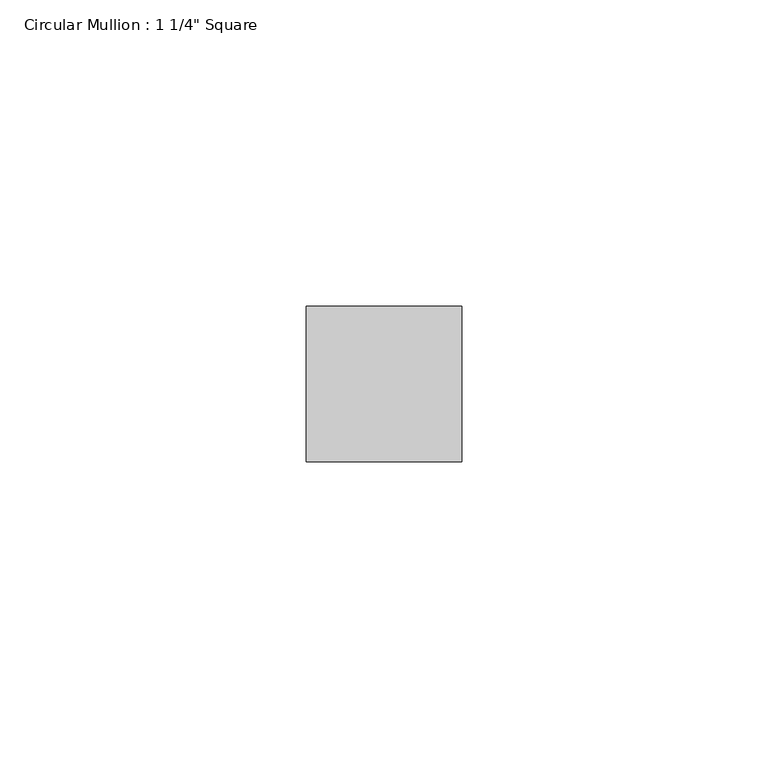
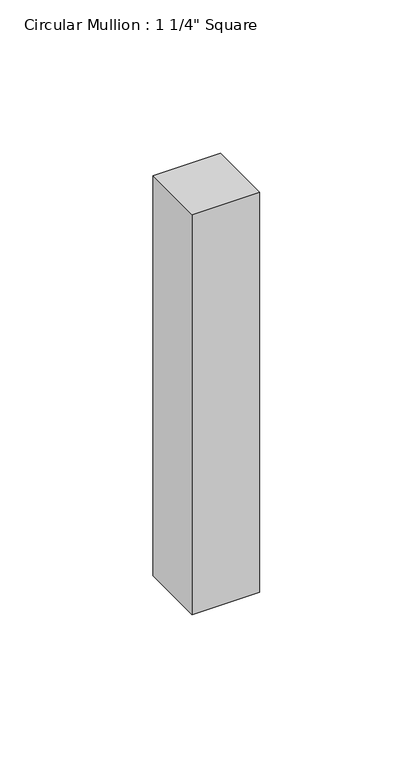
"""IFC4 building model written with IfcOpenShell, lengths in millimetres: member geometry."""

from ifc_helpers import new_model, si_unit, frame, origin, place, context, project, spatial, polyline, outline, extrude, source, transform, mapped, element, save


def member_484ef542(model_context):
    return source(origin(), model_context, "Body", "SweptSolid", [
        extrude(outline(polyline([(0.0, 12.7), (0.0, -12.7), (-25.4, -12.7), (-25.4, 12.7), (0.0, 12.7)])), frame((0.0, 0.0, -159.0876618), z_axis=(0.0, 0.0, 1.0), x_axis=(1.0, 0.0, 0.0)), (0.0, 0.0, 1.0), 159.0876618),
    ])


if __name__ == "__main__":
    model = new_model("IFC4")
    model_context = context("Model", 3, world=origin())
    ifc_project = project(units=[si_unit("LENGTHUNIT", "METRE", prefix="MILLI")], contexts=[model_context])
    site = spatial("IfcSite", under=ifc_project)
    building = spatial("IfcBuilding", under=site)
    placement = place(None, origin())
    member_shape = member_484ef542(model_context)
    element("IfcMember", 1, ObjectType="Circular Mullion : 1 1/4\" Square", at=placement, inside=building, context=model_context, shape_type="MappedRepresentation", body=[
        mapped(member_shape, transform((0.0, 0.0, 0.0), x_axis=(1.0, 0.0, 0.0), y_axis=(0.0, 1.0, 0.0), z_axis=(0.0, 0.0, 1.0))),
    ])
    save(model, "model.ifc")
